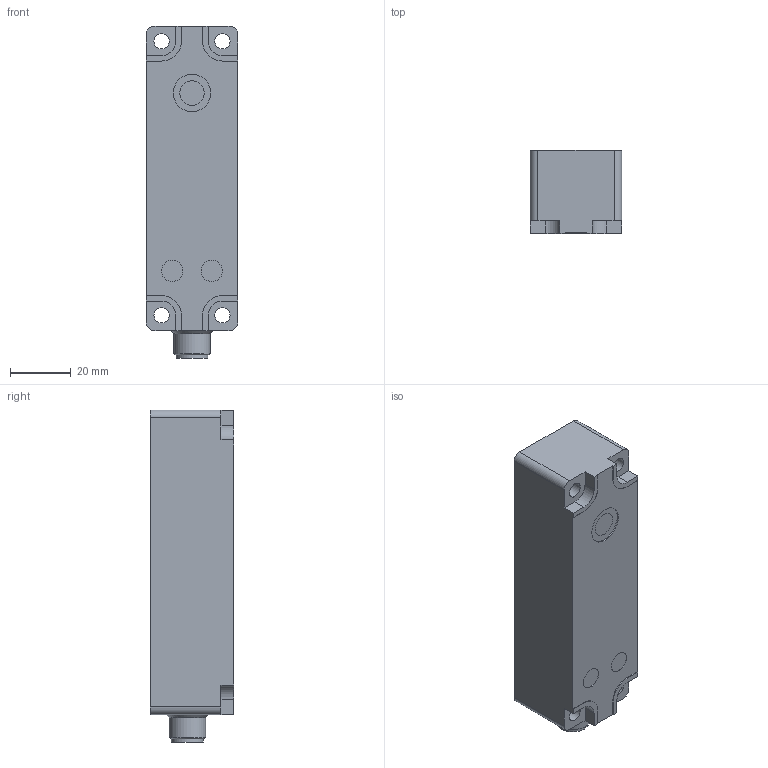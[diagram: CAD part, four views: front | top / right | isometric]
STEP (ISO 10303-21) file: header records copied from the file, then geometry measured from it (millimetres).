
FILE_DESCRIPTION((''),'2;1');
FILE_NAME('B:\MITARBEITER\Gembarski\Inventor\TEMP\Konvertierungsformate\Microsonic\IPT\STP\Ics-25_DD_QP.stp','2007-04-18T17:18:02',('gembarski'),(''),'Autodesk Inventor 10','Autodesk Inventor 10','');
FILE_SCHEMA(('AUTOMOTIVE_DESIGN { 1 0 10303 214 1 1 1 1 }'));
Length unit declared in the file: millimetre
Products named in the file (1): Ics-25_DD_QP
Bounding box: 30 x 27.4 x 109 mm (x, y, z)
Volume: 78818.5 mm3; surface area: 14918.6 mm2
Topology: 1 solids, 1 shells, 113 faces, 286 edges, 184 vertices
Faces by surface type: plane 51, cylinder 47, bspline 8, sphere 5, cone 2
Full cylindrical faces by diameter (mm): 1 x5, 1.77 x1, 5 x4, 7 x2, 8 x1, 8.3 x1, 9.2 x1, 10.5 x1, 12 x1, 12.3 x1
Entity records: 3520 total; most frequent: CARTESIAN_POINT 894, DIRECTION 551, ORIENTED_EDGE 498, EDGE_CURVE 249, AXIS2_PLACEMENT_3D 202, VERTEX_POINT 173, EDGE_LOOP 156, VECTOR 147
